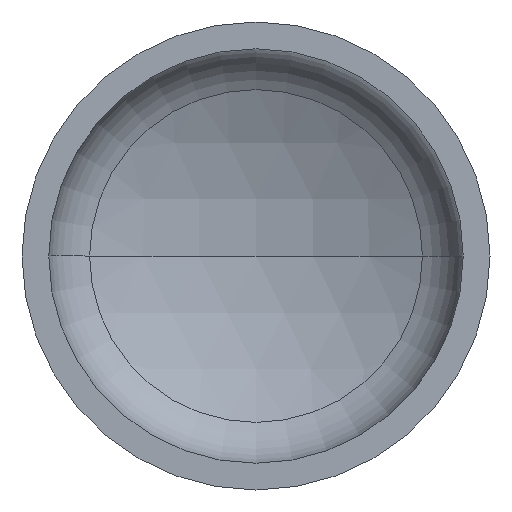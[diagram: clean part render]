
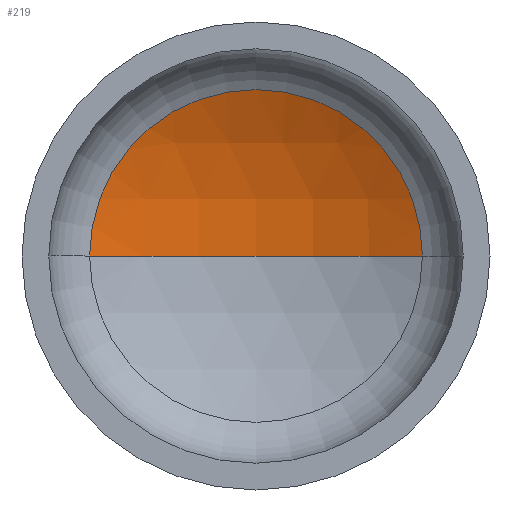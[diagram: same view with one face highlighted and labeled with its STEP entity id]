
A CAD part, front view. The second image highlights one B-rep face of the part: STEP entity #219.
In plain terms, the highlighted spherical face has radius 560 mm.
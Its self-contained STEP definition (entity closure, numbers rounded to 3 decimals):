
#6 = EDGE_LOOP ( 'NONE', ( #84, #42, #32 ) ) ;
#26 = DIRECTION ( 'NONE',  ( 1., 0., 0. ) ) ;
#31 = DIRECTION ( 'NONE',  ( 0., -1., 0. ) ) ;
#32 = ORIENTED_EDGE ( 'NONE', *, *, #172, .T. ) ;
#42 = ORIENTED_EDGE ( 'NONE', *, *, #123, .T. ) ;
#80 = AXIS2_PLACEMENT_3D ( 'NONE', #206, #156, #176 ) ;
#84 = ORIENTED_EDGE ( 'NONE', *, *, #148, .F. ) ;
#85 = VERTEX_POINT ( 'NONE', #231 ) ;
#96 = DIRECTION ( 'NONE',  ( 0., 0., -1. ) ) ;
#118 = CIRCLE ( 'NONE', #164, 560. ) ;
#123 = EDGE_CURVE ( 'NONE', #379, #85, #208, .T. ) ;
#148 = EDGE_CURVE ( 'NONE', #379, #369, #118, .T. ) ;
#156 = DIRECTION ( 'NONE',  ( 0., 0., -1. ) ) ;
#157 = DIRECTION ( 'NONE',  ( 0., 0., 1. ) ) ;
#164 = AXIS2_PLACEMENT_3D ( 'NONE', #180, #157, #315 ) ;
#165 = CARTESIAN_POINT ( 'NONE',  ( 0., 276.887, 0. ) ) ;
#171 = CARTESIAN_POINT ( 'NONE',  ( -248.889, 218.539, 0. ) ) ;
#172 = EDGE_CURVE ( 'NONE', #85, #369, #199, .T. ) ;
#176 = DIRECTION ( 'NONE',  ( -1., 0., 0. ) ) ;
#180 = CARTESIAN_POINT ( 'NONE',  ( 0., -283.113, 0. ) ) ;
#185 = SPHERICAL_SURFACE ( 'NONE', #321, 560. ) ;
#199 = CIRCLE ( 'NONE', #204, 248.889 ) ;
#204 = AXIS2_PLACEMENT_3D ( 'NONE', #245, #31, #26 ) ;
#206 = CARTESIAN_POINT ( 'NONE',  ( 0., -283.113, 0. ) ) ;
#208 = CIRCLE ( 'NONE', #80, 560. ) ;
#219 = ADVANCED_FACE ( 'NONE', ( #344 ), #185, .F. ) ;
#231 = CARTESIAN_POINT ( 'NONE',  ( 248.889, 218.539, 0. ) ) ;
#245 = CARTESIAN_POINT ( 'NONE',  ( 0., 218.539, 0. ) ) ;
#269 = DIRECTION ( 'NONE',  ( -1., 0., 0. ) ) ;
#288 = CARTESIAN_POINT ( 'NONE',  ( 0., -283.113, 0. ) ) ;
#315 = DIRECTION ( 'NONE',  ( 1., 0., 0. ) ) ;
#321 = AXIS2_PLACEMENT_3D ( 'NONE', #288, #96, #269 ) ;
#344 = FACE_OUTER_BOUND ( 'NONE', #6, .T. ) ;
#369 = VERTEX_POINT ( 'NONE', #171 ) ;
#379 = VERTEX_POINT ( 'NONE', #165 ) ;
